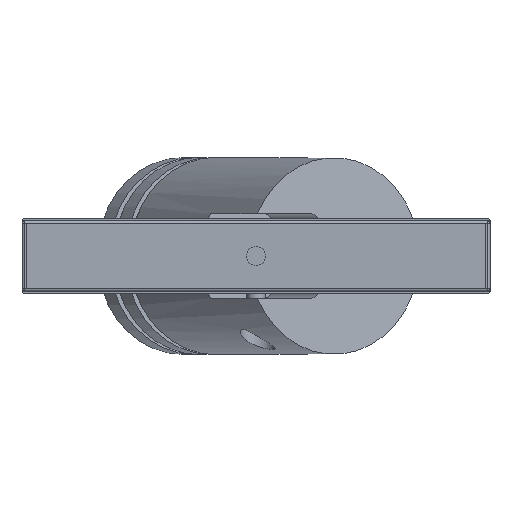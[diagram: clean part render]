
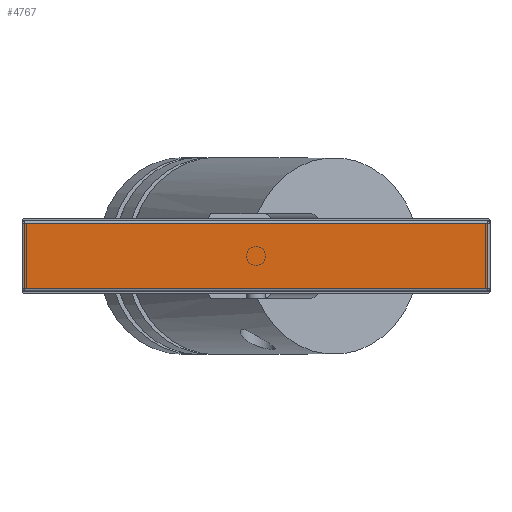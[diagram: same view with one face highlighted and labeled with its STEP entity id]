
A CAD part, front view. The second image highlights one B-rep face of the part: STEP entity #4767.
In plain terms, the highlighted planar face has unit normal (0, -1, 0).
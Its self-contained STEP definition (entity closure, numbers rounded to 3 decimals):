
#728=FACE_OUTER_BOUND('',#1010,.T.);
#1010=EDGE_LOOP('',(#3194,#3195,#3196,#3197));
#1328=LINE('',#6685,#1619);
#1332=LINE('',#6702,#1623);
#1334=LINE('',#6708,#1625);
#1335=LINE('',#6709,#1626);
#1619=VECTOR('',#5519,10.);
#1623=VECTOR('',#5541,10.);
#1625=VECTOR('',#5547,10.);
#1626=VECTOR('',#5548,10.);
#1913=VERTEX_POINT('',#6682);
#1914=VERTEX_POINT('',#6684);
#1918=VERTEX_POINT('',#6701);
#1920=VERTEX_POINT('',#6707);
#2422=EDGE_CURVE('',#1913,#1914,#1328,.T.);
#2431=EDGE_CURVE('',#1914,#1918,#1332,.T.);
#2434=EDGE_CURVE('',#1920,#1913,#1334,.T.);
#2435=EDGE_CURVE('',#1918,#1920,#1335,.T.);
#3194=ORIENTED_EDGE('',*,*,#2422,.F.);
#3195=ORIENTED_EDGE('',*,*,#2434,.F.);
#3196=ORIENTED_EDGE('',*,*,#2435,.F.);
#3197=ORIENTED_EDGE('',*,*,#2431,.F.);
#4676=PLANE('',#5077);
#4767=ADVANCED_FACE('',(#728),#4676,.T.);
#5077=AXIS2_PLACEMENT_3D('',#6706,#5545,#5546);
#5519=DIRECTION('',(-1.,0.,0.));
#5541=DIRECTION('',(0.,0.,1.));
#5545=DIRECTION('center_axis',(0.,-1.,0.));
#5546=DIRECTION('ref_axis',(0.,0.,-1.));
#5547=DIRECTION('',(0.,0.,-1.));
#5548=DIRECTION('',(1.,0.,0.));
#6682=CARTESIAN_POINT('',(-861.42,-49.25,-7.));
#6684=CARTESIAN_POINT('',(-960.42,-49.25,-7.));
#6685=CARTESIAN_POINT('',(-905.46,-49.25,-7.));
#6701=CARTESIAN_POINT('',(-960.42,-49.25,7.));
#6702=CARTESIAN_POINT('',(-960.42,-49.25,4.));
#6706=CARTESIAN_POINT('Origin',(-910.92,-49.25,0.));
#6707=CARTESIAN_POINT('',(-861.42,-49.25,7.));
#6708=CARTESIAN_POINT('',(-861.42,-49.25,-4.));
#6709=CARTESIAN_POINT('',(-905.46,-49.25,7.));
